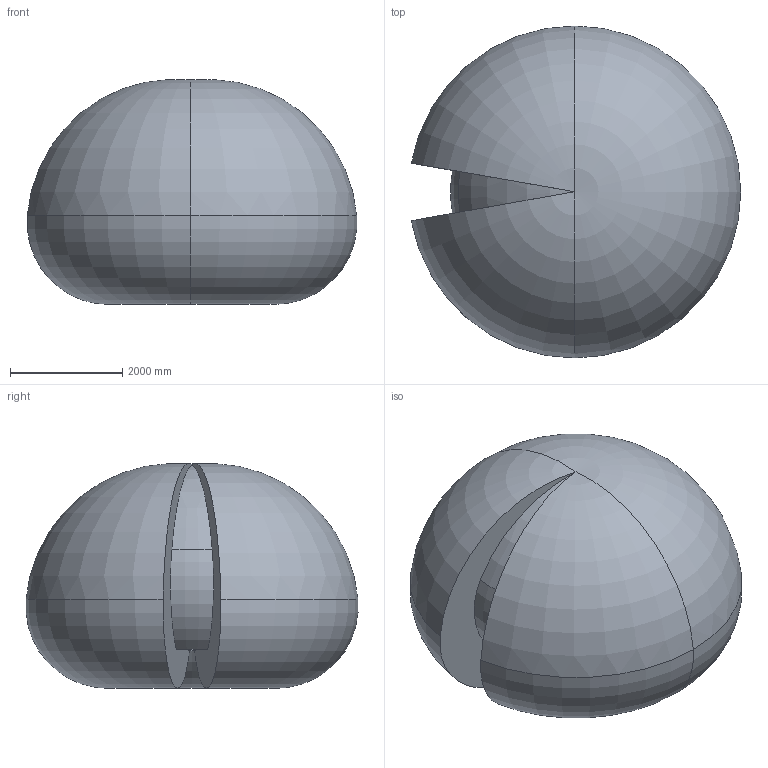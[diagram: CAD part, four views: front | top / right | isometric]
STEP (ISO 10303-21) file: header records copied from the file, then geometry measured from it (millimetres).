
FILE_DESCRIPTION (( 'STEP AP214' ), '1' );
FILE_NAME ('IRB6710-LID_175kg-295_OC_00_Working-space.STEP', '2023-05-10T08:27:41', ( '' ), ( '' ), 'SwSTEP 2.0', 'SolidWorks 2020', '' );
FILE_SCHEMA (( 'AUTOMOTIVE_DESIGN' ));
Length unit declared in the file: millimetre
Products named in the file (1): IRB6710-LID_175kg-295_OC_00_Working-space
Bounding box: 5865.6 x 5910.49 x 3998.23 mm (x, y, z)
Volume: 71890210239.1 mm3; surface area: 115927144.8 mm2
Topology: 1 solids, 1 shells, 18 faces, 44 edges, 20 vertices
Faces by surface type: torus 16, plane 2
Entity records: 514 total; most frequent: DIRECTION 110, CARTESIAN_POINT 75, ORIENTED_EDGE 72, AXIS2_PLACEMENT_3D 55, CIRCLE 36, EDGE_CURVE 36, VERTEX_POINT 20, EDGE_LOOP 18
